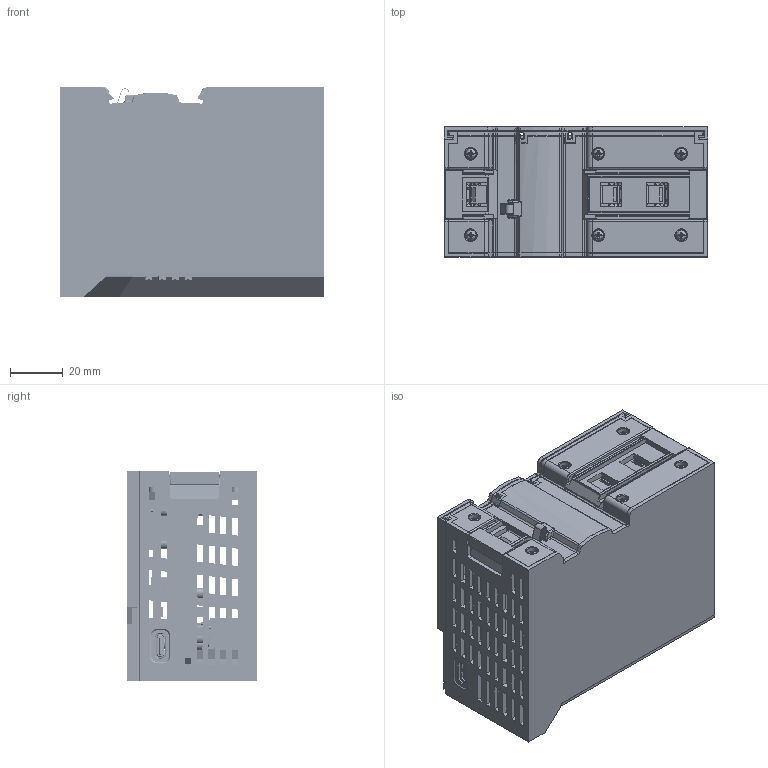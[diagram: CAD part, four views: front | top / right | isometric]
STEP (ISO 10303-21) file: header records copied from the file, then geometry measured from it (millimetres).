
FILE_DESCRIPTION((''),'2;1');
FILE_NAME('00-OUHEQI_ASM','2024-09-29T',('zhong'),(''),'CREO PARAMETRIC BY PTC INC, 2016050','CREO PARAMETRIC BY PTC INC, 2016050','');
FILE_SCHEMA(('CONFIG_CONTROL_DESIGN'));
Length unit declared in the file: millimetre
Products named in the file (23): OUHEQI-MAIN-CASE; OUHEQI-SIDE-CASE; OUHEQI-TOP-CASE; OUHEQI-LOW-CASE; OUHEQI-LIGHT; OUHEQI-HOLDER; OUHEQI-DATA-PLATE; 00-OUHEQI-MD_ASM; PCB-1; 16; DGKYDTYPEC16A5A1Y3W1SI125; DF750_200_-JP; RJ45-PCB; DGKYD111B002BA2A1D28; DG212R-THR-5_0-04P-13-100A; SHELL; RJ45-PCB_ASM; PCB-ASM_ASM; LOCK-1; LOCK-2; IO-COVER; SCREW_PM2X6; 00-OUHEQI_ASM
Assembly tree (29 placements, depth 4):
  00-OUHEQI_ASM
    00-OUHEQI-MD_ASM
      OUHEQI-MAIN-CASE
      OUHEQI-SIDE-CASE
      OUHEQI-TOP-CASE
      OUHEQI-LOW-CASE
      OUHEQI-LIGHT
      OUHEQI-HOLDER
      OUHEQI-DATA-PLATE
    PCB-ASM_ASM
      PCB-1
      16
      DGKYDTYPEC16A5A1Y3W1SI125
      DF750_200_-JP  x2
      RJ45-PCB_ASM
        RJ45-PCB
        DGKYD111B002BA2A1D28  x2
        DG212R-THR-5_0-04P-13-100A
        SHELL
    LOCK-1
    LOCK-2
    IO-COVER
    SCREW_PM2X6  x6
Bounding box: 100 x 49.5 x 80 mm (x, y, z)
Volume: 106882.4 mm3; surface area: 167164.7 mm2
Topology: 28 solids, 39 shells, 8230 faces, 23443 edges, 15160 vertices
Faces by surface type: plane 5947, cylinder 1471, bspline 263, cone 245, extrusion 184, sphere 62, torus 58
Entity records: 274038 total; most frequent: CARTESIAN_POINT 61487, ORIENTED_EDGE 40498, DIRECTION 35648, EDGE_CURVE 20249, VECTOR 15980, LINE 15860, VERTEX_POINT 13077, AXIS2_PLACEMENT_3D 9834
